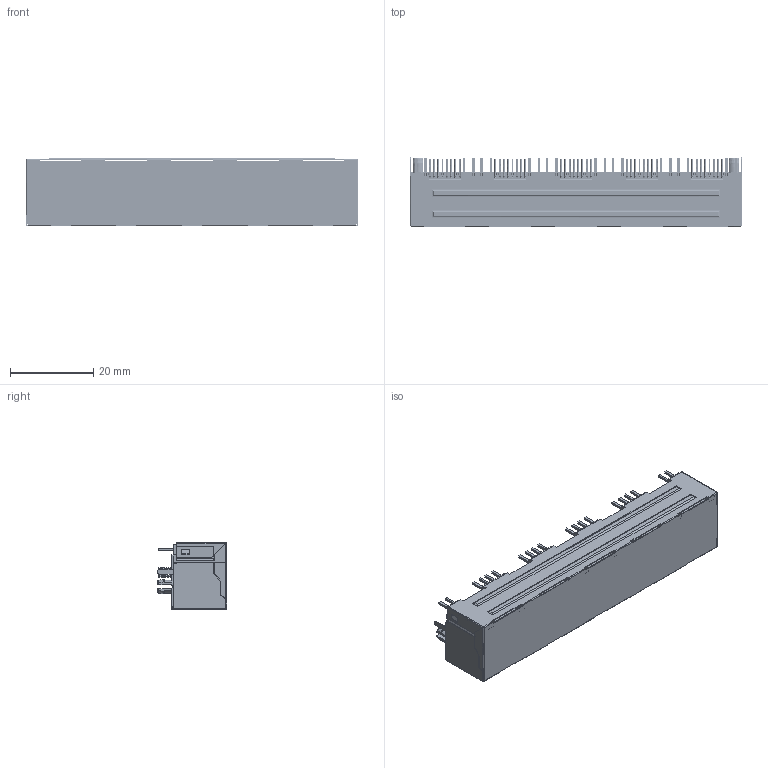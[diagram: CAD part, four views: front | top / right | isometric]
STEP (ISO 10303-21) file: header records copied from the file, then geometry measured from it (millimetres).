
FILE_DESCRIPTION((''),'2;1');
FILE_NAME('56-5_1_0001_ASM','2025-01-08T13:52:40',('DGKYD'),(''),'CREO PARAMETRIC BY PTC INC, 2019010','CREO PARAMETRIC BY PTC INC, 2019010','');
FILE_SCHEMA(('CONFIG_CONTROL_DESIGN'));
Products named in the file (59): ADMI08B464EAQX52_2; ADMI08B464EAQX52_3; ADMI08B464EAQX52_4; ADMI08B464EAQX52_5; ADMI08B464EAQX52_6; ADMI08B464EAQX52_7; ADMI08B464EAQX52_8; ADMI08B464EAQX52_9; ADMI08B464EAQX52_10; ADMI08B464EAQX52_11; ADMI08B464EAQX52_12; ADMI08B464EAQX52_13; ADMI08B464EAQX52_14; ADMI08B464EAQX52_15; ADMI08B464EAQX52_16; ADMI08B464EAQX52_17; ADMI08B464EAQX52_18; ADMI08B464EAQX52_19; ADMI08B464EAQX52_20; ADMI08B464EAQX52_21; ADMI08B464EAQX52_22; ADMI08B464EAQX52_23; ADMI08B464EAQX52_24; ADMI08B464EAQX52_25; ADMI08B464EAQX52_26; ADMI08B464EAQX52_27; ADMI08B464EAQX52_28; ADMI08B464EAQX52_29; ADMI08B464EAQX52_30; ADMI08B464EAQX52_31; ADMI08B464EAQX52_32; ADMI08B464EAQX52_33; ADMI08B464EAQX52_34; ADMI08B464EAQX52_35; ADMI08B464EAQX52_36; ADMI08B464EAQX52_37; ADMI08B464EAQX52_38; ADMI08B464EAQX52_39; ADMI08B464EAQX52_40; ADMI08B464EAQX52_41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
Assembly tree (58 placements, depth 3):
  56-5_1_0001_ASM
    ADMI08B464EAQX52_ASM
      ADMI08B464EAQX52_2
      ADMI08B464EAQX52_3
      ADMI08B464EAQX52_4
      ADMI08B464EAQX52_5
      ADMI08B464EAQX52_6
      ADMI08B464EAQX52_7
      ADMI08B464EAQX52_8
      ADMI08B464EAQX52_9
      ADMI08B464EAQX52_10
      ADMI08B464EAQX52_11
      ADMI08B464EAQX52_12
      ADMI08B464EAQX52_13
      ADMI08B464EAQX52_14
      ADMI08B464EAQX52_15
      ADMI08B464EAQX52_16
      ADMI08B464EAQX52_17
      ADMI08B464EAQX52_18
      ADMI08B464EAQX52_19
      ADMI08B464EAQX52_20
      ADMI08B464EAQX52_21
      ADMI08B464EAQX52_22
      ADMI08B464EAQX52_23
      ADMI08B464EAQX52_24
      ADMI08B464EAQX52_25
      ADMI08B464EAQX52_26
      ADMI08B464EAQX52_27
      ADMI08B464EAQX52_28
      ADMI08B464EAQX52_29
      ADMI08B464EAQX52_30
      ADMI08B464EAQX52_31
      ADMI08B464EAQX52_32
      ADMI08B464EAQX52_33
      ADMI08B464EAQX52_34
      ADMI08B464EAQX52_35
      ADMI08B464EAQX52_36
      ADMI08B464EAQX52_37
      ADMI08B464EAQX52_38
      ADMI08B464EAQX52_39
      ADMI08B464EAQX52_40
      ADMI08B464EAQX52_41
      ADMI08B464EAQX52_42
      ADMI08B464EAQX52_43
      ADMI08B464EAQX52_44
      ADMI08B464EAQX52_45
      ADMI08B464EAQX52_46
      ADMI08B464EAQX52_47
      ADMI08B464EAQX52_48
      ADMI08B464EAQX52_49
      ADMI08B464EAQX52_50
      ADMI08B464EAQX52_51
      ADMI08B464EAQX52_52
      ADMI08B464EAQX52_53
      ADMI08B464EAQX52_54
      ADMI08B464EAQX52_55
      ADMI08B464EAQX52_56
      ADMI08B464EAQX52_57
      ADMI08B464EAQX52_1
Bounding box: 79.61 x 16.65 x 16.28 mm (x, y, z)
Volume: 8007.7 mm3; surface area: 23750.2 mm2
Topology: 57 solids, 57 shells, 4847 faces, 13078 edges, 8181 vertices
Faces by surface type: plane 2808, bspline 1620, cylinder 411, cone 4, torus 4
Entity records: 300675 total; most frequent: CARTESIAN_POINT 189677, ORIENTED_EDGE 26156, DIRECTION 17028, EDGE_CURVE 13078, VECTOR 8714, LINE 8714, VERTEX_POINT 8181, EDGE_LOOP 4955
